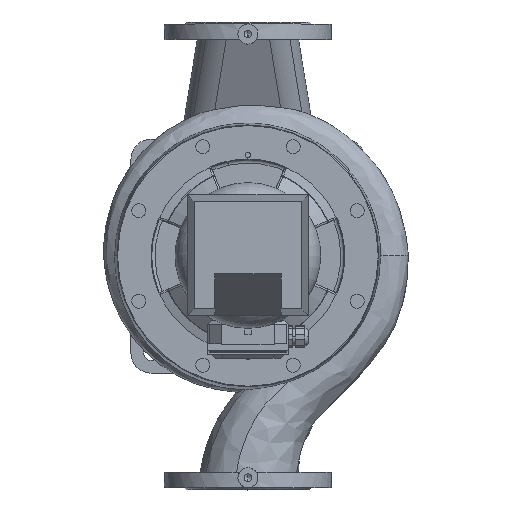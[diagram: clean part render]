
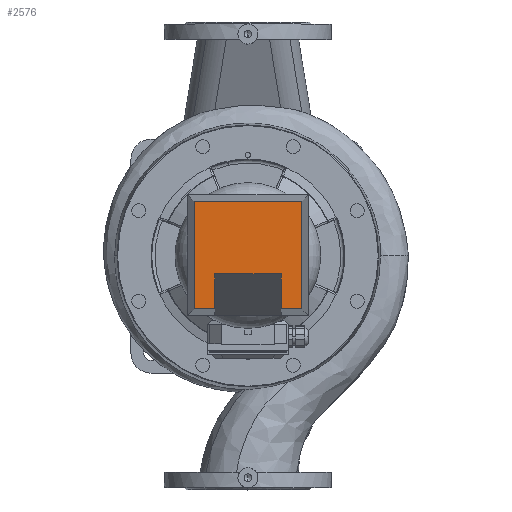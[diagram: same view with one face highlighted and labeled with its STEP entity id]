
A CAD part, top view. The second image highlights one B-rep face of the part: STEP entity #2576.
In plain terms, the highlighted planar face has unit normal (0, 0, 1) as drawn and (0, 1, 0) by its records, which use the part's own axes.
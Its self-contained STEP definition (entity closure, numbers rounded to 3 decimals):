
#2576=ADVANCED_FACE('',(#4882),#4883,.T.);
#2586=EDGE_CURVE('',#4895,#4898,#4899,.T.);
#4882=FACE_OUTER_BOUND('',#11421,.T.);
#4883=PLANE('',#11422);
#4895=VERTEX_POINT('',#11435);
#4898=VERTEX_POINT('',#11440);
#4899=LINE('',#11441,#11442);
#11421=EDGE_LOOP('',(#17778,#17779,#17780,#17781,#17782,#17783,#17784,#17785));
#11422=AXIS2_PLACEMENT_3D('',#17786,#17787,#17788);
#11435=CARTESIAN_POINT('',(50.0,114.0,118.64));
#11440=CARTESIAN_POINT('',(50.0,114.0,171.0));
#11441=CARTESIAN_POINT('',(50.0,114.0,90.179));
#11442=VECTOR('',#17814,1.0);
#17778=ORIENTED_EDGE('',*,*,#2586,.T.);
#17779=ORIENTED_EDGE('',*,*,#23492,.F.);
#17780=ORIENTED_EDGE('',*,*,#23500,.F.);
#17781=ORIENTED_EDGE('',*,*,#23502,.F.);
#17782=ORIENTED_EDGE('',*,*,#23494,.F.);
#17783=ORIENTED_EDGE('',*,*,#23488,.F.);
#17784=ORIENTED_EDGE('',*,*,#23481,.T.);
#17785=ORIENTED_EDGE('',*,*,#23484,.T.);
#17786=CARTESIAN_POINT('',(0.0,114.0,0.0));
#17787=DIRECTION('',(0.0,1.0,-0.0));
#17788=DIRECTION('',(-1.0,0.0,0.0));
#17814=DIRECTION('',(0.0,0.0,1.0));
#23481=EDGE_CURVE('',#36246,#36248,#36250,.T.);
#23484=EDGE_CURVE('',#36248,#4895,#36253,.T.);
#23488=EDGE_CURVE('',#36246,#36257,#36258,.T.);
#23492=EDGE_CURVE('',#36263,#4898,#36265,.T.);
#23494=EDGE_CURVE('',#36257,#36267,#36268,.T.);
#23500=EDGE_CURVE('',#36273,#36263,#36275,.T.);
#23502=EDGE_CURVE('',#36267,#36273,#36277,.T.);
#36246=VERTEX_POINT('',#40893);
#36248=VERTEX_POINT('',#40896);
#36250=LINE('',#40899,#40900);
#36253=LINE('',#40904,#40905);
#36257=VERTEX_POINT('',#40910);
#36258=LINE('',#40911,#40912);
#36263=VERTEX_POINT('',#40919);
#36265=LINE('',#40922,#40923);
#36267=VERTEX_POINT('',#40925);
#36268=LINE('',#40926,#40927);
#36273=VERTEX_POINT('',#40935);
#36275=LINE('',#40938,#40939);
#36277=LINE('',#40941,#40942);
#40893=CARTESIAN_POINT('',(-50.0,114.0,171.0));
#40896=CARTESIAN_POINT('',(-50.0,114.0,118.64));
#40899=CARTESIAN_POINT('',(-50.0,114.0,90.179));
#40900=VECTOR('',#47913,1.0);
#40904=CARTESIAN_POINT('',(25.0,114.0,118.64));
#40905=VECTOR('',#47915,1.0);
#40910=CARTESIAN_POINT('',(-80.5,114.0,171.0));
#40911=CARTESIAN_POINT('',(45.25,114.0,171.0));
#40912=VECTOR('',#47917,1.0);
#40919=CARTESIAN_POINT('',(80.5,114.0,171.0));
#40922=CARTESIAN_POINT('',(45.25,114.0,171.0));
#40923=VECTOR('',#47921,1.0);
#40925=CARTESIAN_POINT('',(-80.5,114.0,10.0));
#40926=CARTESIAN_POINT('',(-80.5,114.0,0.0));
#40927=VECTOR('',#47922,1.0);
#40935=CARTESIAN_POINT('',(80.5,114.0,10.0));
#40938=CARTESIAN_POINT('',(80.5,114.0,0.0));
#40939=VECTOR('',#47927,1.0);
#40941=CARTESIAN_POINT('',(45.25,114.0,10.0));
#40942=VECTOR('',#47928,1.0);
#47913=DIRECTION('',(-0.0,0.0,-1.0));
#47915=DIRECTION('',(1.0,-0.0,0.0));
#47917=DIRECTION('',(-1.0,0.0,-0.0));
#47921=DIRECTION('',(-1.0,0.0,-0.0));
#47922=DIRECTION('',(-0.0,-0.0,-1.0));
#47927=DIRECTION('',(-0.0,0.0,1.0));
#47928=DIRECTION('',(1.0,-0.0,-0.0));
